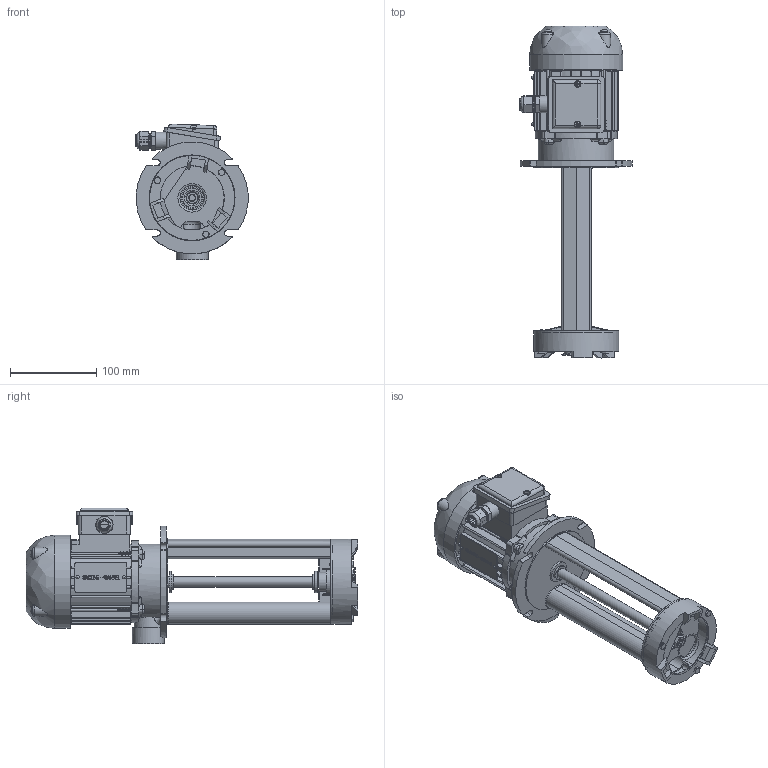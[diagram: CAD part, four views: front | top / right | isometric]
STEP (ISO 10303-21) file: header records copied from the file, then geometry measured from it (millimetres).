
FILE_DESCRIPTION(/* description */ (''),/* implementation_level */ '2;1');
FILE_NAME(/* name */ 'P:\3D PER CLIENTI\POMPE\SPV\YT56SVB++2208257.stp',/* time_stamp */ '2018-10-29T17:02:23+01:00',/* author */ ('cboccato'),/* organization */ (''),/* preprocessor_version */ 'ST-DEVELOPER v17.2',/* originating_system */ 'Autodesk Inventor 2019',/* authorisation */ '');
FILE_SCHEMA (('AUTOMOTIVE_DESIGN { 1 0 10303 214 3 1 1 }'));
Products named in the file (1): YT56SVB++2208257_iLogic_Shrinkwrap
Bounding box: 129.88 x 384.79 x 157.58 mm (x, y, z)
Volume: 670630.1 mm3; surface area: 380255.8 mm2
Topology: 14 solids, 16 shells, 1854 faces, 5206 edges, 3385 vertices
Faces by surface type: plane 1051, cylinder 435, bspline 167, cone 140, torus 53, sphere 8
Full cylindrical faces by diameter (mm): 1.1 x2, 2.53 x2, 2.56 x44, 3 x2, 3.5 x8, 3.8 x4, 4 x5, 4.5 x2, 4.58 x4, 6.03 x3, 6.5 x4, 7 x4, 7.5 x2, 7.9 x4, 8 x2, 8.5 x2, 8.6 x4, 10 x1, 11.3 x1, 11.5 x2, 11.95 x6, 12 x2, 12.004 x2, 13.154 x1, 13.376 x1, 13.8 x1, 14 x1, 14.4 x1, 15.77 x1, 16.16 x1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
Entity records: 72896 total; most frequent: CARTESIAN_POINT 23671, ORIENTED_EDGE 10414, DIRECTION 9276, EDGE_CURVE 5207, VERTEX_POINT 3396, AXIS2_PLACEMENT_3D 3288, LINE 2700, VECTOR 2700
